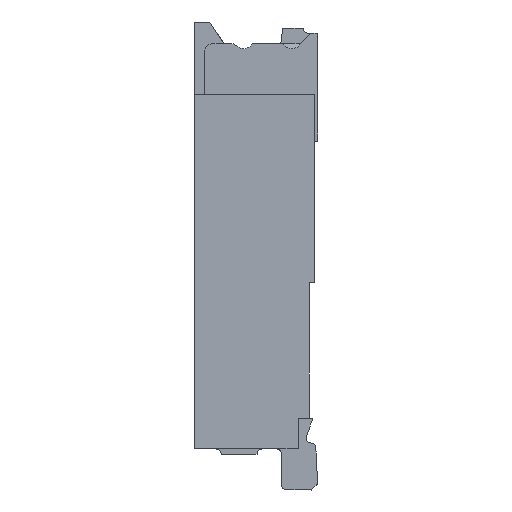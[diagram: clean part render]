
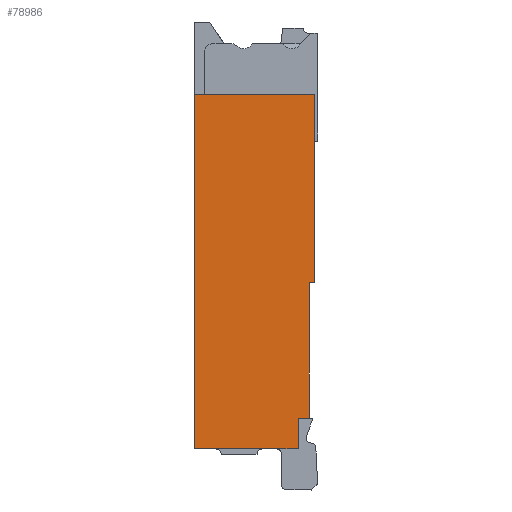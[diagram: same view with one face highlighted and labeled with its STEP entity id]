
A CAD part, left-side view. The second image highlights one B-rep face of the part: STEP entity #78986.
In plain terms, the highlighted planar face has unit normal (-1, 0, 0).
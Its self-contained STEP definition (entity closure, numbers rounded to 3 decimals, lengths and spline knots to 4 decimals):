
#879=DIRECTION('',(0.,0.,1.));
#880=VECTOR('',#879,3.45);
#881=CARTESIAN_POINT('',(-7.,1.17,0.));
#882=LINE('',#881,#880);
#883=DIRECTION('',(0.,0.,-1.));
#884=VECTOR('',#883,1.83);
#885=CARTESIAN_POINT('',(-7.,0.,3.45));
#886=LINE('',#885,#884);
#887=DIRECTION('',(0.,1.,0.));
#888=VECTOR('',#887,0.05);
#889=CARTESIAN_POINT('',(-7.,0.,1.62));
#890=LINE('',#889,#888);
#891=DIRECTION('',(0.,0.,-1.));
#892=VECTOR('',#891,1.32);
#893=CARTESIAN_POINT('',(-7.,0.05,1.62));
#894=LINE('',#893,#892);
#895=DIRECTION('',(0.,1.,0.));
#896=VECTOR('',#895,0.11);
#897=CARTESIAN_POINT('',(-7.,0.05,0.3));
#898=LINE('',#897,#896);
#899=DIRECTION('',(0.,0.,1.));
#900=VECTOR('',#899,0.3);
#901=CARTESIAN_POINT('',(-7.,0.16,0.));
#902=LINE('',#901,#900);
#9811=DIRECTION('',(0.,1.,0.));
#9812=VECTOR('',#9811,1.17);
#9813=CARTESIAN_POINT('',(-7.,0.,3.45));
#9814=LINE('',#9813,#9812);
#9925=DIRECTION('',(0.,-1.,0.));
#9926=VECTOR('',#9925,1.01);
#9927=CARTESIAN_POINT('',(-7.,1.17,0.));
#9928=LINE('',#9927,#9926);
#59758=CARTESIAN_POINT('',(-7.,1.17,0.));
#59760=VERTEX_POINT('',#59758);
#60594=CARTESIAN_POINT('',(-7.,0.05,0.3));
#60595=VERTEX_POINT('',#60594);
#66304=CARTESIAN_POINT('',(-7.,0.,3.45));
#66305=CARTESIAN_POINT('',(-7.,0.,1.62));
#66306=VERTEX_POINT('',#66304);
#66307=VERTEX_POINT('',#66305);
#66484=CARTESIAN_POINT('',(-7.,0.05,1.62));
#66485=VERTEX_POINT('',#66484);
#66486=CARTESIAN_POINT('',(-7.,0.16,0.));
#66487=VERTEX_POINT('',#66486);
#66488=CARTESIAN_POINT('',(-7.,1.17,3.45));
#66489=VERTEX_POINT('',#66488);
#66490=CARTESIAN_POINT('',(-7.,0.16,0.3));
#66491=VERTEX_POINT('',#66490);
#78966=CARTESIAN_POINT('',(-7.,0.585,1.725));
#78967=DIRECTION('',(1.,0.,0.));
#78968=DIRECTION('',(0.,-1.,0.));
#78969=AXIS2_PLACEMENT_3D('',#78966,#78967,#78968);
#78970=PLANE('',#78969);
#78972=ORIENTED_EDGE('',*,*,#78971,.F.);
#78974=ORIENTED_EDGE('',*,*,#78973,.F.);
#78975=ORIENTED_EDGE('',*,*,#77796,.T.);
#78977=ORIENTED_EDGE('',*,*,#78976,.F.);
#78979=ORIENTED_EDGE('',*,*,#78978,.T.);
#78981=ORIENTED_EDGE('',*,*,#78980,.T.);
#78982=ORIENTED_EDGE('',*,*,#78883,.T.);
#78983=ORIENTED_EDGE('',*,*,#78715,.T.);
#78984=EDGE_LOOP('',(#78972,#78974,#78975,#78977,#78979,#78981,#78982,#78983));
#78985=FACE_OUTER_BOUND('',#78984,.F.);
#78986=ADVANCED_FACE('',(#78985),#78970,.F.);
#77796=EDGE_CURVE('',#59760,#66489,#882,.T.);
#78715=EDGE_CURVE('',#60595,#66491,#898,.T.);
#78883=EDGE_CURVE('',#66485,#60595,#894,.T.);
#78971=EDGE_CURVE('',#66487,#66491,#902,.T.);
#78973=EDGE_CURVE('',#59760,#66487,#9928,.T.);
#78976=EDGE_CURVE('',#66306,#66489,#9814,.T.);
#78978=EDGE_CURVE('',#66306,#66307,#886,.T.);
#78980=EDGE_CURVE('',#66307,#66485,#890,.T.);
